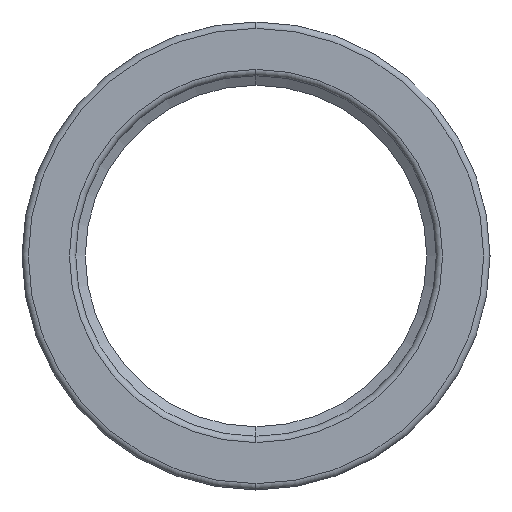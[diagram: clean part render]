
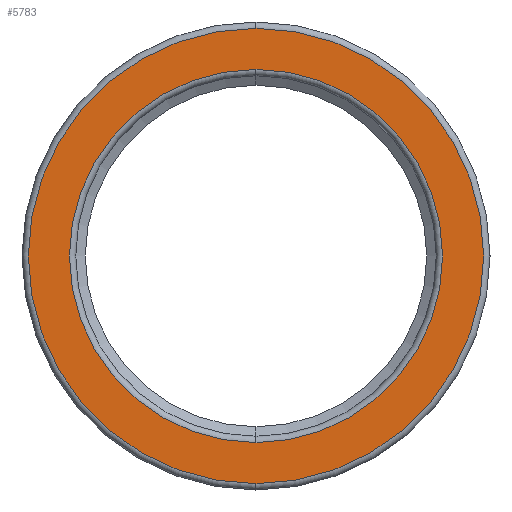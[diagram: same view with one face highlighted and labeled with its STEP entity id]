
A CAD part, left-side view. The second image highlights one B-rep face of the part: STEP entity #5783.
In plain terms, the highlighted planar face has unit normal (-1, 0, 0).
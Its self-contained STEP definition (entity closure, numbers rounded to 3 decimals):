
#24 = CIRCLE ( 'NONE', #1319, 14.75 ) ;
#243 = DIRECTION ( 'NONE',  ( 1., 0., 0. ) ) ;
#305 = EDGE_CURVE ( 'NONE', #1238, #4397, #5049, .T. ) ;
#440 = AXIS2_PLACEMENT_3D ( 'NONE', #4001, #7581, #2778 ) ;
#731 = ORIENTED_EDGE ( 'NONE', *, *, #7110, .T. ) ;
#795 = DIRECTION ( 'NONE',  ( -1., 0., 0. ) ) ;
#1022 = FACE_OUTER_BOUND ( 'NONE', #7478, .T. ) ;
#1238 = VERTEX_POINT ( 'NONE', #7441 ) ;
#1319 = AXIS2_PLACEMENT_3D ( 'NONE', #5771, #243, #5078 ) ;
#1414 = EDGE_CURVE ( 'NONE', #4397, #1238, #5646, .T. ) ;
#1783 = AXIS2_PLACEMENT_3D ( 'NONE', #7789, #3688, #8489 ) ;
#2219 = ORIENTED_EDGE ( 'NONE', *, *, #305, .T. ) ;
#2778 = DIRECTION ( 'NONE',  ( 0., 0., -1. ) ) ;
#3415 = DIRECTION ( 'NONE',  ( 1., 0., 0. ) ) ;
#3485 = PLANE ( 'NONE',  #440 ) ;
#3688 = DIRECTION ( 'NONE',  ( -1., 0., 0. ) ) ;
#4001 = CARTESIAN_POINT ( 'NONE',  ( -23., 18.5, 0. ) ) ;
#4272 = EDGE_CURVE ( 'NONE', #7625, #8779, #24, .T. ) ;
#4397 = VERTEX_POINT ( 'NONE', #5879 ) ;
#4936 = CARTESIAN_POINT ( 'NONE',  ( -23., 0., 0. ) ) ;
#5016 = FACE_BOUND ( 'NONE', #5177, .T. ) ;
#5049 = CIRCLE ( 'NONE', #6566, 18. ) ;
#5078 = DIRECTION ( 'NONE',  ( 0., 0., -1. ) ) ;
#5177 = EDGE_LOOP ( 'NONE', ( #5755, #731 ) ) ;
#5257 = AXIS2_PLACEMENT_3D ( 'NONE', #7514, #3415, #8208 ) ;
#5623 = DIRECTION ( 'NONE',  ( 0., 0., -1. ) ) ;
#5646 = CIRCLE ( 'NONE', #1783, 18. ) ;
#5755 = ORIENTED_EDGE ( 'NONE', *, *, #4272, .T. ) ;
#5771 = CARTESIAN_POINT ( 'NONE',  ( -23., 0., 0. ) ) ;
#5783 = ADVANCED_FACE ( 'NONE', ( #5016, #1022 ), #3485, .F. ) ;
#5836 = CIRCLE ( 'NONE', #5257, 14.75 ) ;
#5879 = CARTESIAN_POINT ( 'NONE',  ( -23., 0., -18. ) ) ;
#6214 = ORIENTED_EDGE ( 'NONE', *, *, #1414, .T. ) ;
#6566 = AXIS2_PLACEMENT_3D ( 'NONE', #4936, #795, #5623 ) ;
#7110 = EDGE_CURVE ( 'NONE', #8779, #7625, #5836, .T. ) ;
#7178 = CARTESIAN_POINT ( 'NONE',  ( -23., 0., 14.75 ) ) ;
#7441 = CARTESIAN_POINT ( 'NONE',  ( -23., 0., 18. ) ) ;
#7478 = EDGE_LOOP ( 'NONE', ( #6214, #2219 ) ) ;
#7514 = CARTESIAN_POINT ( 'NONE',  ( -23., 0., 0. ) ) ;
#7581 = DIRECTION ( 'NONE',  ( 1., 0., 0. ) ) ;
#7625 = VERTEX_POINT ( 'NONE', #8937 ) ;
#7789 = CARTESIAN_POINT ( 'NONE',  ( -23., 0., 0. ) ) ;
#8208 = DIRECTION ( 'NONE',  ( 0., 0., -1. ) ) ;
#8489 = DIRECTION ( 'NONE',  ( 0., 0., -1. ) ) ;
#8779 = VERTEX_POINT ( 'NONE', #7178 ) ;
#8937 = CARTESIAN_POINT ( 'NONE',  ( -23., 0., -14.75 ) ) ;
